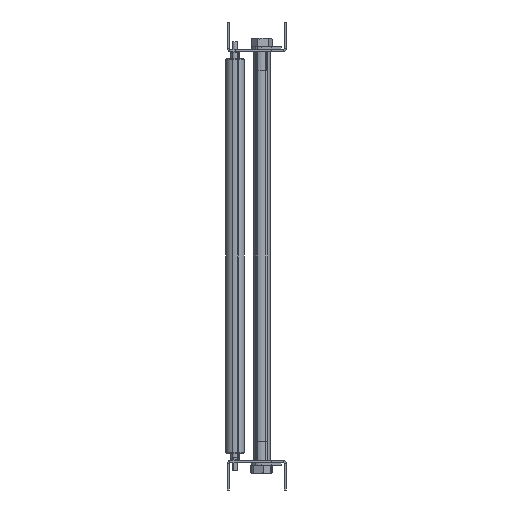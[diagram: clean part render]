
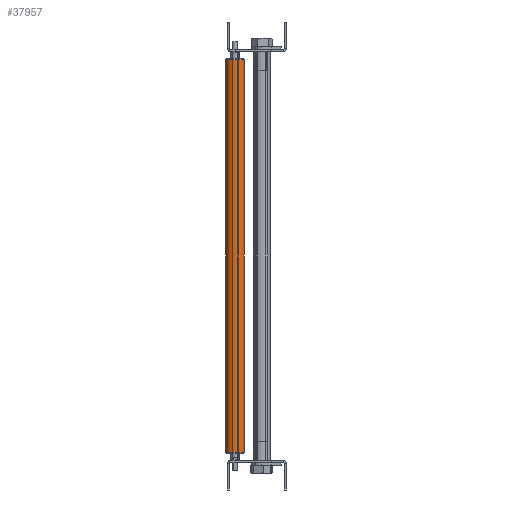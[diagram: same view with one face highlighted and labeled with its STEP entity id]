
A CAD part, left-side view. The second image highlights one B-rep face of the part: STEP entity #37957.
In plain terms, the highlighted cylindrical face has radius 9.55 mm (diameter 19.1 mm), a partial arc.
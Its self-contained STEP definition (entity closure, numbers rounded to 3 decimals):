
#4095 = DIRECTION ( 'NONE',  ( 0., 0., -1. ) ) ;
#7302 = CIRCLE ( 'NONE', #37919, 9.55 ) ;
#7687 = DIRECTION ( 'NONE',  ( 0., 0., -1. ) ) ;
#9376 = CIRCLE ( 'NONE', #28776, 9.55 ) ;
#10526 = VERTEX_POINT ( 'NONE', #39293 ) ;
#19444 = DIRECTION ( 'NONE',  ( 0.003, -1., 0. ) ) ;
#28776 = AXIS2_PLACEMENT_3D ( 'NONE', #81013, #42682, #19444 ) ;
#36046 = VERTEX_POINT ( 'NONE', #39660 ) ;
#36531 = DIRECTION ( 'NONE',  ( -0.003, 1., 0. ) ) ;
#37919 = AXIS2_PLACEMENT_3D ( 'NONE', #81968, #43639, #36531 ) ;
#37957 = ADVANCED_FACE ( 'NONE', ( #58605 ), #97422, .T. ) ;
#39008 = CARTESIAN_POINT ( 'NONE',  ( -1271.092, 127.175, -770.041 ) ) ;
#39293 = CARTESIAN_POINT ( 'NONE',  ( -1271.092, 127.175, -23.5 ) ) ;
#39660 = CARTESIAN_POINT ( 'NONE',  ( -1271.025, 108.075, -23.5 ) ) ;
#42682 = DIRECTION ( 'NONE',  ( 0., 0., 1. ) ) ;
#43390 = LINE ( 'NONE', #74179, #99530 ) ;
#43639 = DIRECTION ( 'NONE',  ( 0., 0., -1. ) ) ;
#48180 = VERTEX_POINT ( 'NONE', #67468 ) ;
#49549 = CARTESIAN_POINT ( 'NONE',  ( -1271.059, 117.625, -770.041 ) ) ;
#49823 = EDGE_CURVE ( 'NONE', #48180, #77617, #9376, .T. ) ;
#50967 = EDGE_LOOP ( 'NONE', ( #90847, #87875, #88456, #82191 ) ) ;
#51729 = CARTESIAN_POINT ( 'NONE',  ( -1271.025, 108.075, -421.5 ) ) ;
#56172 = EDGE_CURVE ( 'NONE', #10526, #48180, #77870, .T. ) ;
#57043 = AXIS2_PLACEMENT_3D ( 'NONE', #49549, #4095, #73729 ) ;
#58605 = FACE_OUTER_BOUND ( 'NONE', #50967, .T. ) ;
#67468 = CARTESIAN_POINT ( 'NONE',  ( -1271.092, 127.175, -421.5 ) ) ;
#73573 = EDGE_CURVE ( 'NONE', #36046, #10526, #7302, .T. ) ;
#73729 = DIRECTION ( 'NONE',  ( -0.003, 1., 0. ) ) ;
#74179 = CARTESIAN_POINT ( 'NONE',  ( -1271.025, 108.075, -770.041 ) ) ;
#75565 = EDGE_CURVE ( 'NONE', #36046, #77617, #43390, .T. ) ;
#77617 = VERTEX_POINT ( 'NONE', #51729 ) ;
#77870 = LINE ( 'NONE', #39008, #90306 ) ;
#81013 = CARTESIAN_POINT ( 'NONE',  ( -1271.059, 117.625, -421.5 ) ) ;
#81968 = CARTESIAN_POINT ( 'NONE',  ( -1271.059, 117.625, -23.5 ) ) ;
#82191 = ORIENTED_EDGE ( 'NONE', *, *, #49823, .T. ) ;
#83240 = DIRECTION ( 'NONE',  ( 0., 0., -1. ) ) ;
#87875 = ORIENTED_EDGE ( 'NONE', *, *, #73573, .T. ) ;
#88456 = ORIENTED_EDGE ( 'NONE', *, *, #56172, .T. ) ;
#90306 = VECTOR ( 'NONE', #7687, 1000. ) ;
#90847 = ORIENTED_EDGE ( 'NONE', *, *, #75565, .F. ) ;
#97422 = CYLINDRICAL_SURFACE ( 'NONE', #57043, 9.55 ) ;
#99530 = VECTOR ( 'NONE', #83240, 1000. ) ;
